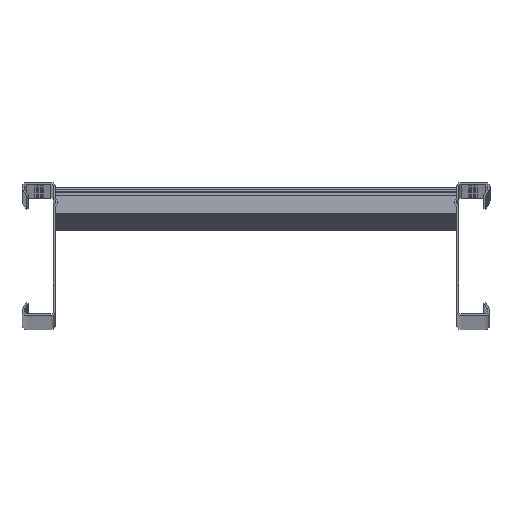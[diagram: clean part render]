
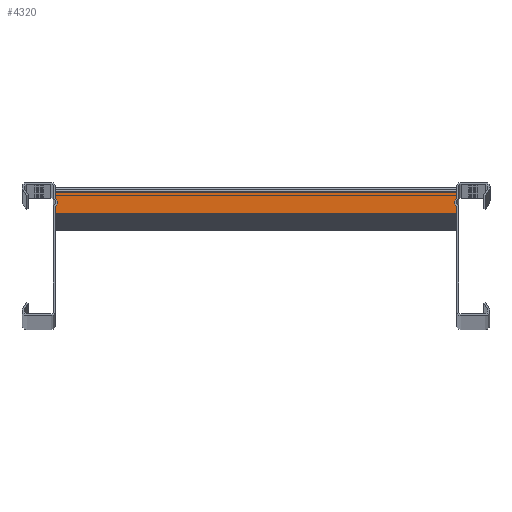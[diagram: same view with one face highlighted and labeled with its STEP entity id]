
A CAD part, top view. The second image highlights one B-rep face of the part: STEP entity #4320.
In plain terms, the highlighted planar face has unit normal (0, 0, 1) as drawn and (1, 0, 0) by its records, which use the part's own axes.
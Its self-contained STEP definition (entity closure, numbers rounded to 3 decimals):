
#530=CARTESIAN_POINT('',(39.75,881.,300.));
#540=VERTEX_POINT('',#530);
#570=CARTESIAN_POINT('',(39.75,0.,300.));
#580=DIRECTION('',(0.,-1.,0.));
#590=VECTOR('',#580,1.);
#600=LINE('',#570,#590);
#610=CARTESIAN_POINT('',(39.75,897.,300.));
#620=VERTEX_POINT('',#610);
#630=EDGE_CURVE('',#620,#540,#600,.T.);
#4020=CARTESIAN_POINT('',(39.75,900.,0.));
#4030=DIRECTION('',(1.,0.,0.));
#4040=DIRECTION('',(0.,-1.,0.));
#4050=AXIS2_PLACEMENT_3D('',#4020,#4030,#4040);
#4060=PLANE('',#4050);
#4070=ORIENTED_EDGE('',*,*,#630,.F.);
#4080=CARTESIAN_POINT('',(39.75,881.,0.));
#4090=DIRECTION('',(0.,0.,1.));
#4100=VECTOR('',#4090,1.);
#4110=LINE('',#4080,#4100);
#4120=CARTESIAN_POINT('',(39.75,881.,600.));
#4130=VERTEX_POINT('',#4120);
#4140=EDGE_CURVE('',#540,#4130,#4110,.T.);
#4150=ORIENTED_EDGE('',*,*,#4140,.F.);
#4160=CARTESIAN_POINT('',(39.75,0.,600.));
#4170=DIRECTION('',(0.,1.,0.));
#4180=VECTOR('',#4170,1.);
#4190=LINE('',#4160,#4180);
#4200=CARTESIAN_POINT('',(39.75,897.,600.));
#4210=VERTEX_POINT('',#4200);
#4220=EDGE_CURVE('',#4130,#4210,#4190,.T.);
#4230=ORIENTED_EDGE('',*,*,#4220,.F.);
#4240=CARTESIAN_POINT('',(39.75,897.,0.));
#4250=DIRECTION('',(0.,0.,1.));
#4260=VECTOR('',#4250,1.);
#4270=LINE('',#4240,#4260);
#4280=EDGE_CURVE('',#620,#4210,#4270,.T.);
#4290=ORIENTED_EDGE('',*,*,#4280,.T.);
#4300=EDGE_LOOP('',(#4290,#4230,#4150,#4070));
#4310=FACE_OUTER_BOUND('',#4300,.T.);
#4320=ADVANCED_FACE('',(#4310),#4060,.T.);
